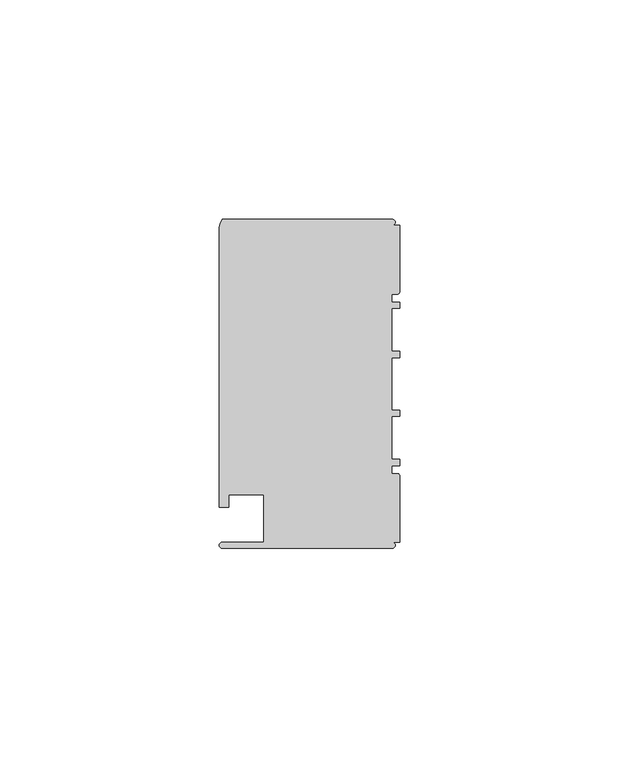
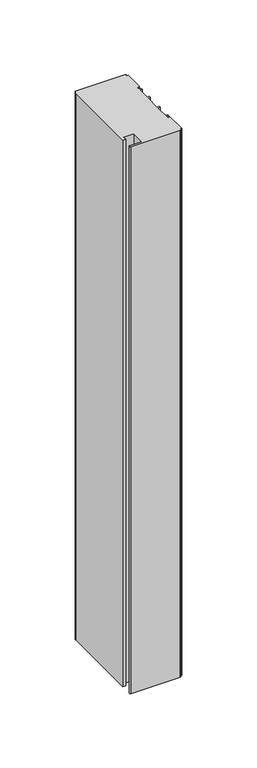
"""IFC4 building model written with IfcOpenShell, lengths in millimetres: member geometry, Прямоугольный импост : 1-AMG-1-Профиль 40Х75 Низ Л."""

from ifc_helpers import new_model, si_unit, point, frame, frame_2d, origin, place, context, project, spatial, polyline, circle_curve, trimmed, segment, composite_curve, outline, extrude, source, transform, mapped, element, save


def member_89e9d058(model_context):
    return source(origin(), model_context, "Body", "SweptSolid", [
        extrude(outline(composite_curve([segment(polyline([(-1.7, -37.5), (-40.4, -37.5)]), True, "CONTINUOUS"), segment(trimmed(circle_curve(frame_2d((-40.4, -36.8)), 0.7), [point((-40.4, -37.5))], [point((-40.4, -36.1))], False, "CARTESIAN"), True, "CONTINUOUS"), segment(polyline([(-40.4, -36.1), (-31.0, -36.1), (-31.0, -25.25), (-39.0, -25.25), (-39.0, -28.1), (-41.1, -28.1), (-41.1, 35.6)]), True, "CONTINUOUS"), segment(trimmed(circle_curve(frame_2d((-38.1714286, 35.6)), 2.9285714), [point((-41.1, 35.6))], [point((-40.4, 37.5))], False, "CARTESIAN"), True, "CONTINUOUS"), segment(polyline([(-40.4, 37.5), (-1.7, 37.5)]), True, "CONTINUOUS"), segment(trimmed(circle_curve(frame_2d((-1.7, 36.8)), 0.7), [point((-1.7, 37.5))], [point((-1.7, 36.1))], False, "CARTESIAN"), True, "CONTINUOUS"), segment(polyline([(-1.7, 36.1), (0.0, 36.1), (0.0, 20.95)]), True, "CONTINUOUS"), segment(trimmed(circle_curve(frame_2d((-0.5, 20.95)), 0.5), [point((0.0, 20.95))], [point((-0.5, 20.45))], False, "CARTESIAN"), True, "CONTINUOUS"), segment(polyline([(-0.5, 20.45), (-1.8, 20.45), (-1.8, 18.65), (0.0, 18.65), (0.0, 17.25), (-1.8, 17.25), (-1.8, 7.4), (0.0, 7.4), (0.0, 6.0), (-1.8, 6.0), (-1.8, -6.0), (0.0, -6.0), (0.0, -7.4), (-1.8, -7.4), (-1.8, -17.25), (0.0, -17.25), (0.0, -18.65), (-1.8, -18.65), (-1.8, -20.45), (-0.5, -20.45)]), True, "CONTINUOUS"), segment(trimmed(circle_curve(frame_2d((-0.5, -20.95)), 0.5), [point((-0.5, -20.45))], [point((0.0, -20.95))], False, "CARTESIAN"), True, "CONTINUOUS"), segment(polyline([(0.0, -20.95), (0.0, -36.1), (-1.7, -36.1)]), True, "CONTINUOUS"), segment(trimmed(circle_curve(frame_2d((-1.7, -36.8)), 0.7), [point((-1.7, -36.1))], [point((-1.7, -37.5))], False, "CARTESIAN"), True, "CONTINUOUS")], self_intersect=False)), frame((0.0, 0.0, -450.0), z_axis=(0.0, 0.0, 1.0), x_axis=(1.0, 0.0, 0.0)), (0.0, 0.0, 1.0), 450.0),
    ])


if __name__ == "__main__":
    model = new_model("IFC4")
    model_context = context("Model", 3, world=origin())
    ifc_project = project(units=[si_unit("LENGTHUNIT", "METRE", prefix="MILLI")], contexts=[model_context])
    site = spatial("IfcSite", under=ifc_project)
    building = spatial("IfcBuilding", under=site)
    placement = place(None, origin())
    member_shape = member_89e9d058(model_context)
    element("IfcMember", 1, ObjectType="Прямоугольный импост : 1-AMG-1-Профиль 40Х75 Низ Л", at=placement, inside=building, context=model_context, shape_type="MappedRepresentation", body=[
        mapped(member_shape, transform((0.0, 0.0, 0.0), x_axis=(1.0, 0.0, 0.0), y_axis=(0.0, 1.0, 0.0), z_axis=(0.0, 0.0, 1.0))),
    ])
    save(model, "model.ifc")
